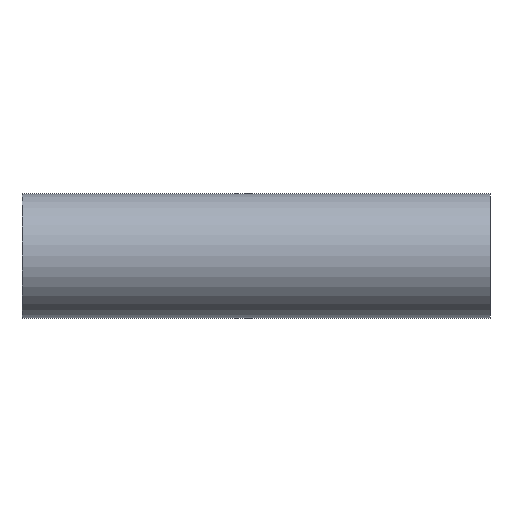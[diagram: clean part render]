
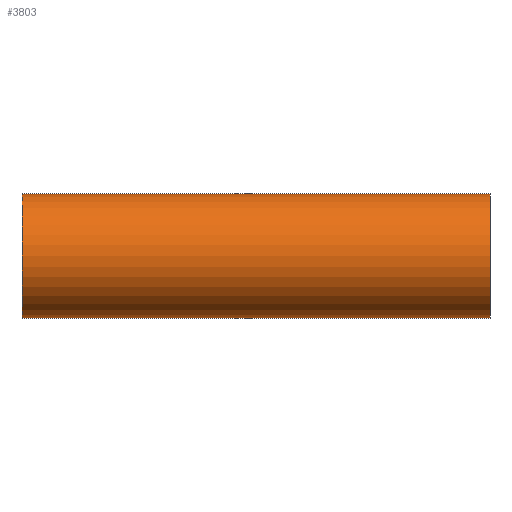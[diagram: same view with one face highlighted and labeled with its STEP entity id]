
A CAD part, left-side view. The second image highlights one B-rep face of the part: STEP entity #3803.
In plain terms, the highlighted cylindrical face has radius 15.975 mm (diameter 31.95 mm), a partial arc.
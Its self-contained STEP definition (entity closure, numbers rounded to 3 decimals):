
#1742 = VERTEX_POINT ( 'NONE', #13589 ) ;
#3600 = VERTEX_POINT ( 'NONE', #42733 ) ;
#3803 = ADVANCED_FACE ( 'NONE', ( #5855 ), #34377, .T. ) ;
#5855 = FACE_OUTER_BOUND ( 'NONE', #45068, .T. ) ;
#6704 = DIRECTION ( 'NONE',  ( 0., 1., 0. ) ) ;
#7312 = DIRECTION ( 'NONE',  ( 0., 0., -1. ) ) ;
#7791 = ORIENTED_EDGE ( 'NONE', *, *, #38257, .T. ) ;
#8675 = EDGE_CURVE ( 'NONE', #1742, #16099, #13012, .T. ) ;
#8882 = ORIENTED_EDGE ( 'NONE', *, *, #16224, .F. ) ;
#10195 = DIRECTION ( 'NONE',  ( 0., -1., 0. ) ) ;
#11294 = DIRECTION ( 'NONE',  ( 0., -1., 0. ) ) ;
#13012 = LINE ( 'NONE', #50507, #47585 ) ;
#13589 = CARTESIAN_POINT ( 'NONE',  ( 0., 120., 15.975 ) ) ;
#13710 = ORIENTED_EDGE ( 'NONE', *, *, #8675, .F. ) ;
#16099 = VERTEX_POINT ( 'NONE', #32036 ) ;
#16224 = EDGE_CURVE ( 'NONE', #48390, #1742, #19387, .T. ) ;
#19387 = CIRCLE ( 'NONE', #46835, 15.975 ) ;
#20826 = CIRCLE ( 'NONE', #50641, 15.975 ) ;
#21802 = CARTESIAN_POINT ( 'NONE',  ( 0., 120., -15.975 ) ) ;
#22286 = VECTOR ( 'NONE', #10195, 1000. ) ;
#24594 = CARTESIAN_POINT ( 'NONE',  ( 0., 120., 0. ) ) ;
#28748 = DIRECTION ( 'NONE',  ( 0., 0., 1. ) ) ;
#30164 = ORIENTED_EDGE ( 'NONE', *, *, #48371, .T. ) ;
#32036 = CARTESIAN_POINT ( 'NONE',  ( 0., 0., 15.975 ) ) ;
#32785 = LINE ( 'NONE', #49909, #22286 ) ;
#34377 = CYLINDRICAL_SURFACE ( 'NONE', #48529, 15.975 ) ;
#38257 = EDGE_CURVE ( 'NONE', #48390, #3600, #32785, .T. ) ;
#38920 = CARTESIAN_POINT ( 'NONE',  ( 0., 120., 0. ) ) ;
#42733 = CARTESIAN_POINT ( 'NONE',  ( 0., 0., -15.975 ) ) ;
#45068 = EDGE_LOOP ( 'NONE', ( #13710, #8882, #7791, #30164 ) ) ;
#46628 = CARTESIAN_POINT ( 'NONE',  ( 0., 0., 0. ) ) ;
#46835 = AXIS2_PLACEMENT_3D ( 'NONE', #24594, #48431, #28748 ) ;
#47585 = VECTOR ( 'NONE', #11294, 1000. ) ;
#48371 = EDGE_CURVE ( 'NONE', #3600, #16099, #20826, .T. ) ;
#48390 = VERTEX_POINT ( 'NONE', #21802 ) ;
#48431 = DIRECTION ( 'NONE',  ( 0., 1., 0. ) ) ;
#48529 = AXIS2_PLACEMENT_3D ( 'NONE', #38920, #50729, #7312 ) ;
#49906 = DIRECTION ( 'NONE',  ( 0., 0., 1. ) ) ;
#49909 = CARTESIAN_POINT ( 'NONE',  ( 0., 120., -15.975 ) ) ;
#50507 = CARTESIAN_POINT ( 'NONE',  ( 0., 120., 15.975 ) ) ;
#50641 = AXIS2_PLACEMENT_3D ( 'NONE', #46628, #6704, #49906 ) ;
#50729 = DIRECTION ( 'NONE',  ( 0., -1., 0. ) ) ;
